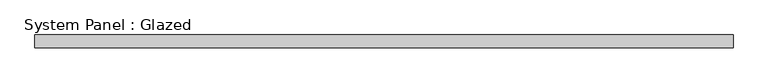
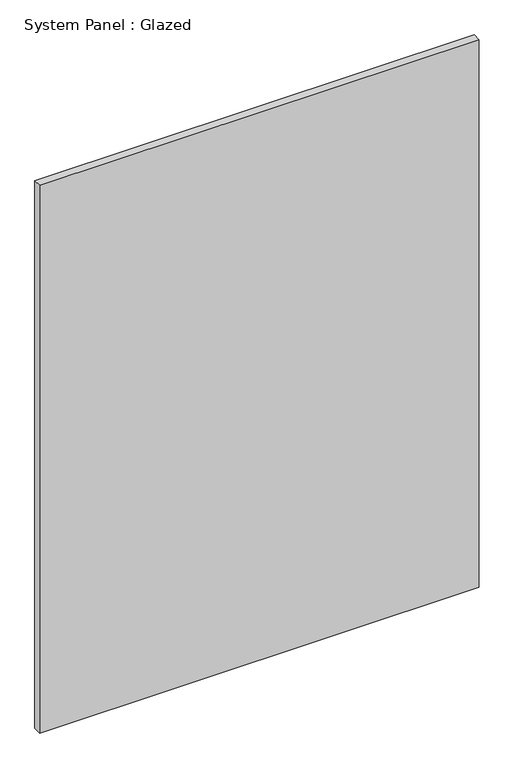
"""IFC4 building model written with IfcOpenShell, lengths in millimetres: plate geometry, System Panel : Glazed."""

from ifc_helpers import new_model, si_unit, origin, origin_with_axes, place, context, project, spatial, polyline, outline, extrude, source, transform, mapped, element, save


def system_panel_glazed_bc2bb54a(model_context):
    return source(origin(), model_context, "Body", "SweptSolid", [
        extrude(outline(polyline([(694.2581768, 19.05), (-694.2581768, 19.05), (-694.2581768, 44.45), (694.2581768, 44.45), (694.2581768, 19.05)])), origin_with_axes(), (0.0, 0.0, 1.0), 1828.8),
    ])


if __name__ == "__main__":
    model = new_model("IFC4")
    model_context = context("Model", 3, world=origin())
    ifc_project = project(units=[si_unit("LENGTHUNIT", "METRE", prefix="MILLI")], contexts=[model_context])
    site = spatial("IfcSite", under=ifc_project)
    building = spatial("IfcBuilding", under=site)
    placement = place(None, origin())
    system_panel_glazed_shape = system_panel_glazed_bc2bb54a(model_context)
    element("IfcPlate", 1, ObjectType="System Panel : Glazed", at=placement, inside=building, context=model_context, shape_type="MappedRepresentation", body=[
        mapped(system_panel_glazed_shape, transform((0.0, 0.0, 0.0), x_axis=(1.0, 0.0, 0.0), y_axis=(0.0, 1.0, 0.0), z_axis=(0.0, 0.0, 1.0))),
    ])
    save(model, "model.ifc")
